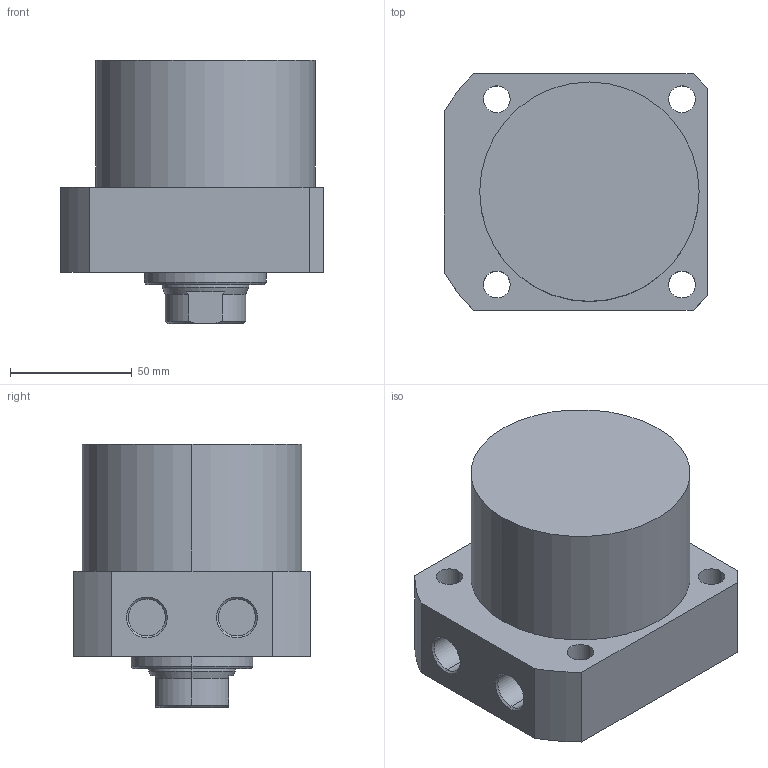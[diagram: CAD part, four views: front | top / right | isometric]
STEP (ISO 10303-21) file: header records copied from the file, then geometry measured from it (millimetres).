
FILE_DESCRIPTION (( 'STEP AP203' ), '1' );
FILE_NAME ('CLLR-090CA-030.STEP', '2019-12-19T02:14:52', ( '' ), ( '' ), 'SwSTEP 2.0', 'SolidWorks 2015', '' );
FILE_SCHEMA (( 'CONFIG_CONTROL_DESIGN' ));
Length unit declared in the file: millimetre
Products named in the file (1): CLLR-090CA-030
Bounding box: 108 x 97 x 108 mm (x, y, z)
Volume: 681072.8 mm3; surface area: 59765.2 mm2
Topology: 1 solids, 1 shells, 63 faces, 149 edges, 94 vertices
Faces by surface type: cylinder 29, plane 19, cone 15
Entity records: 1927 total; most frequent: DIRECTION 340, CARTESIAN_POINT 337, ORIENTED_EDGE 294, EDGE_CURVE 147, AXIS2_PLACEMENT_3D 137, VERTEX_POINT 94, EDGE_LOOP 79, CIRCLE 73
